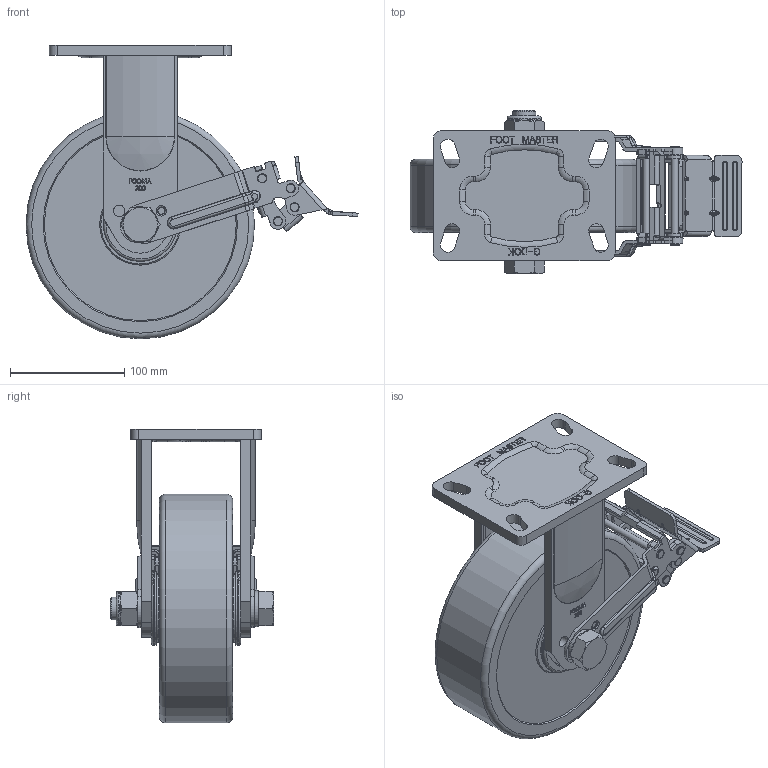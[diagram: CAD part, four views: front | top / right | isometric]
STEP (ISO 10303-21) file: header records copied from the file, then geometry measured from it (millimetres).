
FILE_DESCRIPTION(/* description */ (''),/* implementation_level */ '2;1');
FILE_NAME(/* name */ 'E:\홈피용도면\홈페이지용3d\GF-SERIES\GF-200-BRF-MCD.stp',/* time_stamp */ '2019-07-10T10:38:37+09:00',/* author */ ('장용하'),/* organization */ (''),/* preprocessor_version */ 'ST-DEVELOPER v16.13',/* originating_system */ 'Autodesk Inventor 2018',/* authorisation */ '');
FILE_SCHEMA (('AUTOMOTIVE_DESIGN { 1 0 10303 214 3 1 1 }'));
Length unit declared in the file: millimetre
Products named in the file (1): GF-RF-PLATE
Bounding box: 290.54 x 143 x 257 mm (x, y, z)
Volume: 2459023.8 mm3; surface area: 255625.8 mm2
Topology: 4 solids, 6 shells, 1611 faces, 4238 edges, 2693 vertices
Faces by surface type: bspline 550, plane 528, cylinder 401, torus 87, cone 29, sphere 16
Full cylindrical faces by diameter (mm): 4 x4, 6 x4, 6.2 x18, 7 x2, 8 x8, 10 x2, 20 x1, 30 x1, 33 x2, 59 x2, 64.519 x2, 200 x1
Entity records: 57932 total; most frequent: CARTESIAN_POINT 21716, ORIENTED_EDGE 8138, DIRECTION 6278, EDGE_CURVE 4067, VERTEX_POINT 2647, AXIS2_PLACEMENT_3D 2141, LINE 1996, VECTOR 1996
